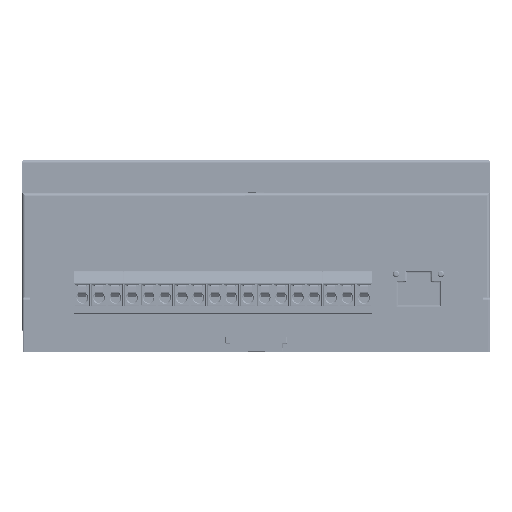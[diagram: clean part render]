
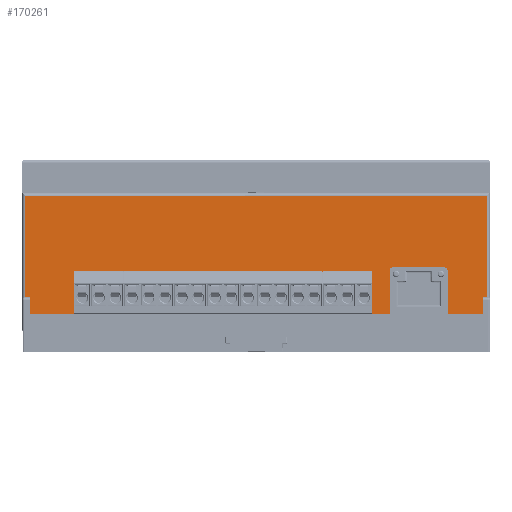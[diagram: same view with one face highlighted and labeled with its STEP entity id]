
A CAD part, top view. The second image highlights one B-rep face of the part: STEP entity #170261.
In plain terms, the highlighted planar face has unit normal (0, 0, 1).
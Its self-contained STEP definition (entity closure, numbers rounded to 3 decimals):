
#897 = EDGE_CURVE ( 'NONE', #341841, #113166, #179135, .T. ) ;
#4008 = VECTOR ( 'NONE', #360333, 1000. ) ;
#4628 = CARTESIAN_POINT ( 'NONE',  ( 128.4, -5., 0. ) ) ;
#4785 = VERTEX_POINT ( 'NONE', #329179 ) ;
#6273 = LINE ( 'NONE', #16403, #423894 ) ;
#8021 = EDGE_CURVE ( 'NONE', #210530, #15771, #73589, .T. ) ;
#9843 = VECTOR ( 'NONE', #53613, 1000. ) ;
#12228 = VECTOR ( 'NONE', #434957, 1000. ) ;
#14117 = VERTEX_POINT ( 'NONE', #180504 ) ;
#14420 = ORIENTED_EDGE ( 'NONE', *, *, #897, .T. ) ;
#15771 = VERTEX_POINT ( 'NONE', #68710 ) ;
#15995 = LINE ( 'NONE', #4628, #285544 ) ;
#16403 = CARTESIAN_POINT ( 'NONE',  ( 139.7, -5., 0. ) ) ;
#22823 = LINE ( 'NONE', #266500, #12228 ) ;
#31865 = ORIENTED_EDGE ( 'NONE', *, *, #332833, .F. ) ;
#32202 = AXIS2_PLACEMENT_3D ( 'NONE', #266693, #301993, #99686 ) ;
#34525 = DIRECTION ( 'NONE',  ( 0., -1., 0. ) ) ;
#37873 = LINE ( 'NONE', #101345, #207083 ) ;
#43785 = DIRECTION ( 'NONE',  ( 0., -1., 0. ) ) ;
#46536 = VERTEX_POINT ( 'NONE', #417548 ) ;
#47056 = ORIENTED_EDGE ( 'NONE', *, *, #227063, .T. ) ;
#48278 = VECTOR ( 'NONE', #305959, 1000. ) ;
#48592 = VERTEX_POINT ( 'NONE', #194396 ) ;
#53113 = CARTESIAN_POINT ( 'NONE',  ( 1.5, -6.5, 0. ) ) ;
#53613 = DIRECTION ( 'NONE',  ( -1., 0., 0. ) ) ;
#57440 = VERTEX_POINT ( 'NONE', #152523 ) ;
#57783 = VERTEX_POINT ( 'NONE', #106518 ) ;
#63387 = EDGE_CURVE ( 'NONE', #14117, #403492, #15995, .T. ) ;
#66999 = LINE ( 'NONE', #53113, #167601 ) ;
#68710 = CARTESIAN_POINT ( 'NONE',  ( 1.5, -9., 0. ) ) ;
#69375 = VERTEX_POINT ( 'NONE', #261628 ) ;
#71331 = AXIS2_PLACEMENT_3D ( 'NONE', #168348, #404591, #202285 ) ;
#73589 = LINE ( 'NONE', #335831, #422508 ) ;
#78745 = CARTESIAN_POINT ( 'NONE',  ( 1.5, -5., 0. ) ) ;
#80659 = DIRECTION ( 'NONE',  ( -1., 0., 0. ) ) ;
#84140 = CIRCLE ( 'NONE', #71331, 1. ) ;
#85441 = ORIENTED_EDGE ( 'NONE', *, *, #356841, .T. ) ;
#99686 = DIRECTION ( 'NONE',  ( -1., 0., 0. ) ) ;
#101345 = CARTESIAN_POINT ( 'NONE',  ( 141.2, -9., 0. ) ) ;
#102550 = VECTOR ( 'NONE', #153427, 1000. ) ;
#106518 = CARTESIAN_POINT ( 'NONE',  ( 45.6, -5., 0. ) ) ;
#109970 = DIRECTION ( 'NONE',  ( 0., 0., -1. ) ) ;
#110441 = FACE_OUTER_BOUND ( 'NONE', #195370, .T. ) ;
#113166 = VERTEX_POINT ( 'NONE', #175431 ) ;
#114996 = VECTOR ( 'NONE', #131760, 1000. ) ;
#116735 = VECTOR ( 'NONE', #43785, 1000. ) ;
#121475 = EDGE_CURVE ( 'NONE', #225290, #341841, #192538, .T. ) ;
#121566 = DIRECTION ( 'NONE',  ( -1., 0., 0. ) ) ;
#131760 = DIRECTION ( 'NONE',  ( -1., 0., 0. ) ) ;
#132196 = PLANE ( 'NONE',  #32202 ) ;
#134495 = ORIENTED_EDGE ( 'NONE', *, *, #432828, .T. ) ;
#135606 = CIRCLE ( 'NONE', #287803, 1. ) ;
#136207 = ORIENTED_EDGE ( 'NONE', *, *, #221891, .F. ) ;
#136829 = DIRECTION ( 'NONE',  ( 1., 0., 0. ) ) ;
#137700 = CARTESIAN_POINT ( 'NONE',  ( 110.9, -5., 0. ) ) ;
#139134 = DIRECTION ( 'NONE',  ( 0., 1., 0. ) ) ;
#141081 = LINE ( 'NONE', #384979, #252153 ) ;
#141775 = ORIENTED_EDGE ( 'NONE', *, *, #396320, .F. ) ;
#144670 = VECTOR ( 'NONE', #381600, 1000. ) ;
#152523 = CARTESIAN_POINT ( 'NONE',  ( 111.9, 9., 0. ) ) ;
#153427 = DIRECTION ( 'NONE',  ( 0., 1., 0. ) ) ;
#155553 = CARTESIAN_POINT ( 'NONE',  ( 1.5, -5., 0. ) ) ;
#158150 = CARTESIAN_POINT ( 'NONE',  ( 1.5, -9., 0. ) ) ;
#166715 = EDGE_CURVE ( 'NONE', #4785, #57783, #414267, .T. ) ;
#167601 = VECTOR ( 'NONE', #323382, 1000. ) ;
#167700 = ORIENTED_EDGE ( 'NONE', *, *, #359807, .T. ) ;
#168348 = CARTESIAN_POINT ( 'NONE',  ( 127.4, 8., 0. ) ) ;
#169524 = VERTEX_POINT ( 'NONE', #389997 ) ;
#170261 = ADVANCED_FACE ( 'NONE', ( #110441 ), #132196, .F. ) ;
#175431 = CARTESIAN_POINT ( 'NONE',  ( 1., 30.5, 0. ) ) ;
#177428 = ORIENTED_EDGE ( 'NONE', *, *, #121475, .T. ) ;
#179135 = LINE ( 'NONE', #186694, #9843 ) ;
#180504 = CARTESIAN_POINT ( 'NONE',  ( 128.4, -5., 0. ) ) ;
#184885 = DIRECTION ( 'NONE',  ( 0., -1., 0. ) ) ;
#185645 = CARTESIAN_POINT ( 'NONE',  ( 139.7, -6.5, 0. ) ) ;
#186694 = CARTESIAN_POINT ( 'NONE',  ( 0., 30.5, 0. ) ) ;
#187719 = VERTEX_POINT ( 'NONE', #369533 ) ;
#192405 = EDGE_CURVE ( 'NONE', #248287, #14117, #141081, .T. ) ;
#192538 = LINE ( 'NONE', #422270, #102550 ) ;
#194396 = CARTESIAN_POINT ( 'NONE',  ( 1., -9., 0. ) ) ;
#195370 = EDGE_LOOP ( 'NONE', ( #31865, #141775, #416259, #323662, #47056, #264399, #207913, #282140, #218489, #85441, #177428, #14420, #134495, #167700, #367250, #275420, #136207, #324678 ) ) ;
#195724 = EDGE_CURVE ( 'NONE', #248287, #386160, #365722, .T. ) ;
#202285 = DIRECTION ( 'NONE',  ( -1., 0., 0. ) ) ;
#206653 = LINE ( 'NONE', #312659, #116735 ) ;
#207083 = VECTOR ( 'NONE', #136829, 1000. ) ;
#207098 = CARTESIAN_POINT ( 'NONE',  ( 138.2, -5., 0. ) ) ;
#207913 = ORIENTED_EDGE ( 'NONE', *, *, #192405, .F. ) ;
#208163 = CARTESIAN_POINT ( 'NONE',  ( 127.4, 9., 0. ) ) ;
#210098 = CARTESIAN_POINT ( 'NONE',  ( 140.2, 30.5, 0. ) ) ;
#210530 = VERTEX_POINT ( 'NONE', #275387 ) ;
#211787 = CARTESIAN_POINT ( 'NONE',  ( 140.2, -9., 0. ) ) ;
#218489 = ORIENTED_EDGE ( 'NONE', *, *, #369922, .T. ) ;
#221891 = EDGE_CURVE ( 'NONE', #57783, #169524, #363306, .T. ) ;
#222210 = EDGE_CURVE ( 'NONE', #210530, #169524, #66999, .T. ) ;
#225290 = VERTEX_POINT ( 'NONE', #211787 ) ;
#227063 = EDGE_CURVE ( 'NONE', #370254, #403492, #84140, .T. ) ;
#227458 = LINE ( 'NONE', #155553, #396591 ) ;
#228101 = LINE ( 'NONE', #137700, #48278 ) ;
#248287 = VERTEX_POINT ( 'NONE', #207098 ) ;
#252153 = VECTOR ( 'NONE', #80659, 1000. ) ;
#259827 = CARTESIAN_POINT ( 'NONE',  ( 128.4, 8., 0. ) ) ;
#261628 = CARTESIAN_POINT ( 'NONE',  ( 110.9, 8., 0. ) ) ;
#264399 = ORIENTED_EDGE ( 'NONE', *, *, #63387, .F. ) ;
#266500 = CARTESIAN_POINT ( 'NONE',  ( 110.9, 9., 0. ) ) ;
#266693 = CARTESIAN_POINT ( 'NONE',  ( 0., 31.5, 0. ) ) ;
#270528 = CARTESIAN_POINT ( 'NONE',  ( 138.2, -5., 0. ) ) ;
#271993 = DIRECTION ( 'NONE',  ( 0.707, -0.707, 0. ) ) ;
#275387 = CARTESIAN_POINT ( 'NONE',  ( 1.5, -6.5, 0. ) ) ;
#275420 = ORIENTED_EDGE ( 'NONE', *, *, #222210, .T. ) ;
#282140 = ORIENTED_EDGE ( 'NONE', *, *, #195724, .T. ) ;
#285544 = VECTOR ( 'NONE', #139134, 1000. ) ;
#287803 = AXIS2_PLACEMENT_3D ( 'NONE', #312331, #109970, #346294 ) ;
#301993 = DIRECTION ( 'NONE',  ( 0., 0., -1. ) ) ;
#305959 = DIRECTION ( 'NONE',  ( 0., -1., 0. ) ) ;
#312331 = CARTESIAN_POINT ( 'NONE',  ( 111.9, 8., 0. ) ) ;
#312659 = CARTESIAN_POINT ( 'NONE',  ( 1., 31.5, 0. ) ) ;
#323331 = VECTOR ( 'NONE', #271993, 1000. ) ;
#323382 = DIRECTION ( 'NONE',  ( 0.707, 0.707, 0. ) ) ;
#323662 = ORIENTED_EDGE ( 'NONE', *, *, #349112, .F. ) ;
#324678 = ORIENTED_EDGE ( 'NONE', *, *, #166715, .F. ) ;
#329179 = CARTESIAN_POINT ( 'NONE',  ( 95.6, -5., 0. ) ) ;
#332833 = EDGE_CURVE ( 'NONE', #187719, #4785, #227458, .T. ) ;
#335831 = CARTESIAN_POINT ( 'NONE',  ( 1.5, -5., 0. ) ) ;
#341841 = VERTEX_POINT ( 'NONE', #210098 ) ;
#346294 = DIRECTION ( 'NONE',  ( -1., 0., 0. ) ) ;
#349112 = EDGE_CURVE ( 'NONE', #370254, #57440, #22823, .T. ) ;
#352808 = LINE ( 'NONE', #158150, #4008 ) ;
#356841 = EDGE_CURVE ( 'NONE', #46536, #225290, #37873, .T. ) ;
#359807 = EDGE_CURVE ( 'NONE', #48592, #15771, #352808, .T. ) ;
#360333 = DIRECTION ( 'NONE',  ( 1., 0., 0. ) ) ;
#363306 = LINE ( 'NONE', #436182, #114996 ) ;
#365722 = LINE ( 'NONE', #270528, #323331 ) ;
#367250 = ORIENTED_EDGE ( 'NONE', *, *, #8021, .F. ) ;
#369533 = CARTESIAN_POINT ( 'NONE',  ( 110.9, -5., 0. ) ) ;
#369922 = EDGE_CURVE ( 'NONE', #386160, #46536, #6273, .T. ) ;
#370254 = VERTEX_POINT ( 'NONE', #208163 ) ;
#372955 = EDGE_CURVE ( 'NONE', #69375, #57440, #135606, .T. ) ;
#381600 = DIRECTION ( 'NONE',  ( -1., 0., 0. ) ) ;
#384979 = CARTESIAN_POINT ( 'NONE',  ( 1.5, -5., 0. ) ) ;
#386160 = VERTEX_POINT ( 'NONE', #185645 ) ;
#389997 = CARTESIAN_POINT ( 'NONE',  ( 3., -5., 0. ) ) ;
#396320 = EDGE_CURVE ( 'NONE', #69375, #187719, #228101, .T. ) ;
#396591 = VECTOR ( 'NONE', #121566, 1000. ) ;
#403492 = VERTEX_POINT ( 'NONE', #259827 ) ;
#404591 = DIRECTION ( 'NONE',  ( 0., 0., -1. ) ) ;
#414267 = LINE ( 'NONE', #78745, #144670 ) ;
#416259 = ORIENTED_EDGE ( 'NONE', *, *, #372955, .T. ) ;
#417548 = CARTESIAN_POINT ( 'NONE',  ( 139.7, -9., 0. ) ) ;
#422270 = CARTESIAN_POINT ( 'NONE',  ( 140.2, 31.5, 0. ) ) ;
#422508 = VECTOR ( 'NONE', #34525, 1000. ) ;
#423894 = VECTOR ( 'NONE', #184885, 1000. ) ;
#432828 = EDGE_CURVE ( 'NONE', #113166, #48592, #206653, .T. ) ;
#434957 = DIRECTION ( 'NONE',  ( -1., 0., 0. ) ) ;
#436182 = CARTESIAN_POINT ( 'NONE',  ( 1.5, -5., 0. ) ) ;
